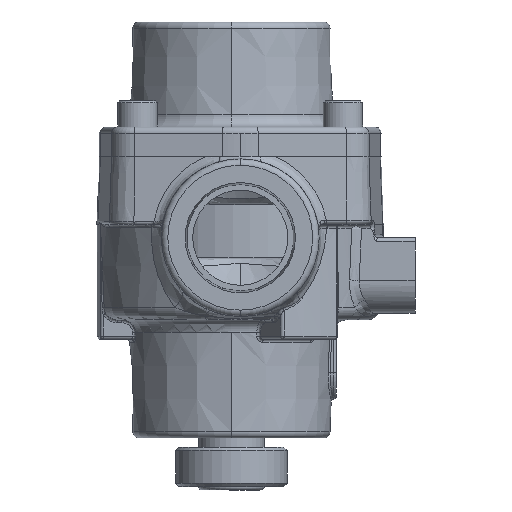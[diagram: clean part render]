
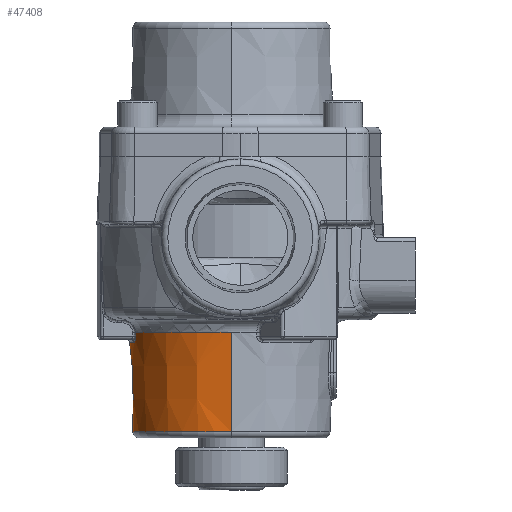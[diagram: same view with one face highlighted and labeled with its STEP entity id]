
A CAD part, left-side view. The second image highlights one B-rep face of the part: STEP entity #47408.
In plain terms, the highlighted conical face has half-angle 2 degrees and reference radius 24.803 mm.
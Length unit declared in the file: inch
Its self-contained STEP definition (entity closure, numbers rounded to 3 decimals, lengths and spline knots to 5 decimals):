
#2183 = EDGE_CURVE ( 'NONE', #4738, #34061, #46285, .T. ) ;
#2186 = EDGE_CURVE ( 'NONE', #4738, #4752, #46261, .T. ) ;
#2189 = EDGE_CURVE ( 'NONE', #4756, #4752, #39371, .T. ) ;
#2195 = EDGE_CURVE ( 'NONE', #4756, #4764, #46575, .T. ) ;
#2200 = EDGE_CURVE ( 'NONE', #4766, #4764, #46546, .T. ) ;
#3963 = VERTEX_POINT ( 'NONE', #29707 ) ;
#3968 = VERTEX_POINT ( 'NONE', #29712 ) ;
#3989 = VERTEX_POINT ( 'NONE', #29733 ) ;
#4738 = VERTEX_POINT ( 'NONE', #29855 ) ;
#4752 = VERTEX_POINT ( 'NONE', #29862 ) ;
#4756 = VERTEX_POINT ( 'NONE', #29864 ) ;
#4764 = VERTEX_POINT ( 'NONE', #29869 ) ;
#4766 = VERTEX_POINT ( 'NONE', #29870 ) ;
#9730 = AXIS2_PLACEMENT_3D ( 'NONE', #25095, #25096, #25097 ) ;
#9804 = AXIS2_PLACEMENT_3D ( 'NONE', #19557, #19559, #19561 ) ;
#10340 = LINE ( 'NONE', #50896, #10345 ) ;
#10345 = VECTOR ( 'NONE', #50897, 39.37008 ) ;
#10542 = LINE ( 'NONE', #47097, #10543 ) ;
#10543 = VECTOR ( 'NONE', #25033, 39.37008 ) ;
#10556 = CIRCLE ( 'NONE', #9730, 0.97229 ) ;
#10759 = CIRCLE ( 'NONE', #9804, 0.97229 ) ;
#11023 = FACE_OUTER_BOUND ( 'NONE', #33997, .T. ) ;
#11027 = CONICAL_SURFACE ( 'NONE', #32903, 0.9765, 0.035 ) ;
#13519 = AXIS2_PLACEMENT_3D ( 'NONE', #36580, #36581, #36582 ) ;
#14797 = EDGE_CURVE ( 'NONE', #3963, #3968, #10340, .T. ) ;
#14933 = EDGE_CURVE ( 'NONE', #3989, #34064, #10542, .T. ) ;
#14947 = EDGE_CURVE ( 'NONE', #34061, #3968, #10556, .T. ) ;
#15275 = EDGE_CURVE ( 'NONE', #34064, #4766, #10759, .T. ) ;
#15369 = AXIS2_PLACEMENT_3D ( 'NONE', #24484, #24486, #24488 ) ;
#16057 = ORIENTED_EDGE ( 'NONE', *, *, #14797, .F. ) ;
#16058 = ORIENTED_EDGE ( 'NONE', *, *, #24019, .T. ) ;
#16059 = ORIENTED_EDGE ( 'NONE', *, *, #14933, .T. ) ;
#16060 = ORIENTED_EDGE ( 'NONE', *, *, #15275, .T. ) ;
#16061 = ORIENTED_EDGE ( 'NONE', *, *, #2200, .T. ) ;
#16062 = ORIENTED_EDGE ( 'NONE', *, *, #2195, .F. ) ;
#16063 = ORIENTED_EDGE ( 'NONE', *, *, #2189, .T. ) ;
#16064 = ORIENTED_EDGE ( 'NONE', *, *, #2186, .F. ) ;
#16065 = ORIENTED_EDGE ( 'NONE', *, *, #2183, .T. ) ;
#16066 = ORIENTED_EDGE ( 'NONE', *, *, #14947, .T. ) ;
#19557 = CARTESIAN_POINT ( 'NONE',  ( 0., 0.084, 1.00436 ) ) ;
#19559 = DIRECTION ( 'NONE',  ( 0., 0., -1. ) ) ;
#19561 = DIRECTION ( 'NONE',  ( 1., 0., 0. ) ) ;
#20629 = DIRECTION ( 'NONE',  ( -1., 0., 0. ) ) ;
#20630 = DIRECTION ( 'NONE',  ( 0., 0., 1. ) ) ;
#20633 = CARTESIAN_POINT ( 'NONE',  ( 0., 0.084, 1.125 ) ) ;
#24019 = EDGE_CURVE ( 'NONE', #3963, #3989, #46176, .T. ) ;
#24341 = CARTESIAN_POINT ( 'NONE',  ( 0.33177, 0.9975, 0.99259 ) ) ;
#24383 = CARTESIAN_POINT ( 'NONE',  ( 0.33176, 0.99706, 0.98082 ) ) ;
#24397 = CARTESIAN_POINT ( 'NONE',  ( 0.33176, 0.99662, 0.96905 ) ) ;
#24400 = CARTESIAN_POINT ( 'NONE',  ( 0.33177, 0.99793, 1.00436 ) ) ;
#24408 = CARTESIAN_POINT ( 'NONE',  ( 0.33176, 0.99662, 0.96905 ) ) ;
#24436 = CARTESIAN_POINT ( 'NONE',  ( 0.33176, 0.99648, 0.96506 ) ) ;
#24438 = CARTESIAN_POINT ( 'NONE',  ( 0.33137, 0.99647, 0.96114 ) ) ;
#24440 = CARTESIAN_POINT ( 'NONE',  ( 0.32987, 0.99673, 0.95342 ) ) ;
#24442 = CARTESIAN_POINT ( 'NONE',  ( 0.32874, 0.997, 0.94958 ) ) ;
#24444 = CARTESIAN_POINT ( 'NONE',  ( 0.32578, 0.99778, 0.9423 ) ) ;
#24446 = CARTESIAN_POINT ( 'NONE',  ( 0.32398, 0.9983, 0.93884 ) ) ;
#24448 = CARTESIAN_POINT ( 'NONE',  ( 0.31971, 0.99956, 0.93231 ) ) ;
#24450 = CARTESIAN_POINT ( 'NONE',  ( 0.31725, 1.0003, 0.92923 ) ) ;
#24452 = CARTESIAN_POINT ( 'NONE',  ( 0.30918, 1.00276, 0.92098 ) ) ;
#24454 = CARTESIAN_POINT ( 'NONE',  ( 0.30271, 1.00477, 0.91655 ) ) ;
#24456 = CARTESIAN_POINT ( 'NONE',  ( 0.28877, 1.00902, 0.91062 ) ) ;
#24458 = CARTESIAN_POINT ( 'NONE',  ( 0.28118, 1.0113, 0.90905 ) ) ;
#24460 = CARTESIAN_POINT ( 'NONE',  ( 0.27354, 1.01355, 0.90905 ) ) ;
#24472 = CARTESIAN_POINT ( 'NONE',  ( -0.28867, 1.00904, 0.91059 ) ) ;
#24484 = CARTESIAN_POINT ( 'NONE',  ( 0., 0.084, 0.90905 ) ) ;
#24486 = DIRECTION ( 'NONE',  ( 0., 0., -1. ) ) ;
#24488 = DIRECTION ( 'NONE',  ( 1., 0., 0. ) ) ;
#24510 = CARTESIAN_POINT ( 'NONE',  ( -0.28119, 1.0113, 0.90905 ) ) ;
#24532 = CARTESIAN_POINT ( 'NONE',  ( -0.27354, 1.01355, 0.90905 ) ) ;
#24535 = CARTESIAN_POINT ( 'NONE',  ( -0.2992, 1.00584, 0.91505 ) ) ;
#24537 = CARTESIAN_POINT ( 'NONE',  ( -0.30253, 1.00481, 0.91688 ) ) ;
#24539 = CARTESIAN_POINT ( 'NONE',  ( -0.30884, 1.00288, 0.92118 ) ) ;
#24541 = CARTESIAN_POINT ( 'NONE',  ( -0.31184, 1.00195, 0.9237 ) ) ;
#24543 = CARTESIAN_POINT ( 'NONE',  ( -0.31992, 0.99949, 0.93196 ) ) ;
#24545 = CARTESIAN_POINT ( 'NONE',  ( -0.3243, 0.99818, 0.93865 ) ) ;
#24547 = CARTESIAN_POINT ( 'NONE',  ( -0.33018, 0.99661, 0.95314 ) ) ;
#24549 = CARTESIAN_POINT ( 'NONE',  ( -0.33175, 0.99633, 0.96107 ) ) ;
#24551 = CARTESIAN_POINT ( 'NONE',  ( -0.33176, 0.99662, 0.96905 ) ) ;
#24576 = CARTESIAN_POINT ( 'NONE',  ( -0.33177, 0.9975, 0.99259 ) ) ;
#24589 = CARTESIAN_POINT ( 'NONE',  ( -0.33177, 0.99793, 1.00436 ) ) ;
#24593 = CARTESIAN_POINT ( 'NONE',  ( -0.33176, 0.99706, 0.98082 ) ) ;
#24595 = CARTESIAN_POINT ( 'NONE',  ( -0.33176, 0.99662, 0.96905 ) ) ;
#25033 = DIRECTION ( 'NONE',  ( -0.035, 0., 0.999 ) ) ;
#25095 = CARTESIAN_POINT ( 'NONE',  ( 0., 0.084, 1.00436 ) ) ;
#25096 = DIRECTION ( 'NONE',  ( 0., 0., -1. ) ) ;
#25097 = DIRECTION ( 'NONE',  ( 1., 0., 0. ) ) ;
#29707 = CARTESIAN_POINT ( 'NONE',  ( 0.93924, 0.084, 0.05791 ) ) ;
#29712 = CARTESIAN_POINT ( 'NONE',  ( 0.97229, 0.084, 1.00436 ) ) ;
#29733 = CARTESIAN_POINT ( 'NONE',  ( -0.93924, 0.084, 0.05791 ) ) ;
#29855 = CARTESIAN_POINT ( 'NONE',  ( 0.33176, 0.99662, 0.96905 ) ) ;
#29862 = CARTESIAN_POINT ( 'NONE',  ( 0.27354, 1.01355, 0.90905 ) ) ;
#29864 = CARTESIAN_POINT ( 'NONE',  ( -0.27354, 1.01355, 0.90905 ) ) ;
#29869 = CARTESIAN_POINT ( 'NONE',  ( -0.33176, 0.99662, 0.96905 ) ) ;
#29870 = CARTESIAN_POINT ( 'NONE',  ( -0.33177, 0.99793, 1.00436 ) ) ;
#32903 = AXIS2_PLACEMENT_3D ( 'NONE', #20633, #20630, #20629 ) ;
#33997 = EDGE_LOOP ( 'NONE', ( #16057, #16058, #16059, #16060, #16061, #16062, #16063, #16064, #16065, #16066 ) ) ;
#34061 = VERTEX_POINT ( 'NONE', #36923 ) ;
#34064 = VERTEX_POINT ( 'NONE', #36925 ) ;
#36580 = CARTESIAN_POINT ( 'NONE',  ( 0., 0.084, 0.05791 ) ) ;
#36581 = DIRECTION ( 'NONE',  ( 0., 0., 1. ) ) ;
#36582 = DIRECTION ( 'NONE',  ( 1., 0., 0. ) ) ;
#36923 = CARTESIAN_POINT ( 'NONE',  ( 0.33177, 0.99793, 1.00436 ) ) ;
#36925 = CARTESIAN_POINT ( 'NONE',  ( -0.97229, 0.084, 1.00436 ) ) ;
#39371 = CIRCLE ( 'NONE', #15369, 0.96896 ) ;
#46176 = CIRCLE ( 'NONE', #13519, 0.93924 ) ;
#46261 = B_SPLINE_CURVE_WITH_KNOTS ( 'NONE', 3,
 ( #24408, #24436, #24438, #24440, #24442, #24444, #24446, #24448, #24450, #24452, #24454, #24456, #24458, #24460 ),
 .UNSPECIFIED., .F., .F.,
 ( 4, 2, 2, 2, 2, 2, 4 ),
 ( 0., 0.0003, 0.0006, 0.0009, 0.0012, 0.0018, 0.0024 ),
 .UNSPECIFIED. ) ;
#46285 = B_SPLINE_CURVE_WITH_KNOTS ( 'NONE', 3,
 ( #24397, #24383, #24341, #24400 ),
 .UNSPECIFIED., .F., .F.,
 ( 4, 4 ),
 ( 0., 0.0009 ),
 .UNSPECIFIED. ) ;
#46546 = B_SPLINE_CURVE_WITH_KNOTS ( 'NONE', 3,
 ( #24589, #24576, #24593, #24595 ),
 .UNSPECIFIED., .F., .F.,
 ( 4, 4 ),
 ( 0., 0.0009 ),
 .UNSPECIFIED. ) ;
#46575 = B_SPLINE_CURVE_WITH_KNOTS ( 'NONE', 3,
 ( #24532, #24510, #24472, #24535, #24537, #24539, #24541, #24543, #24545, #24547, #24549, #24551 ),
 .UNSPECIFIED., .F., .F.,
 ( 4, 2, 2, 2, 2, 4 ),
 ( 0., 0.0006, 0.0009, 0.0012, 0.0018, 0.0024 ),
 .UNSPECIFIED. ) ;
#47097 = CARTESIAN_POINT ( 'NONE',  ( -0.9765, 0.084, 1.125 ) ) ;
#47408 = ADVANCED_FACE ( 'NONE', ( #11023 ), #11027, .T. ) ;
#50896 = CARTESIAN_POINT ( 'NONE',  ( 0.9765, 0.084, 1.125 ) ) ;
#50897 = DIRECTION ( 'NONE',  ( 0.035, 0., 0.999 ) ) ;
